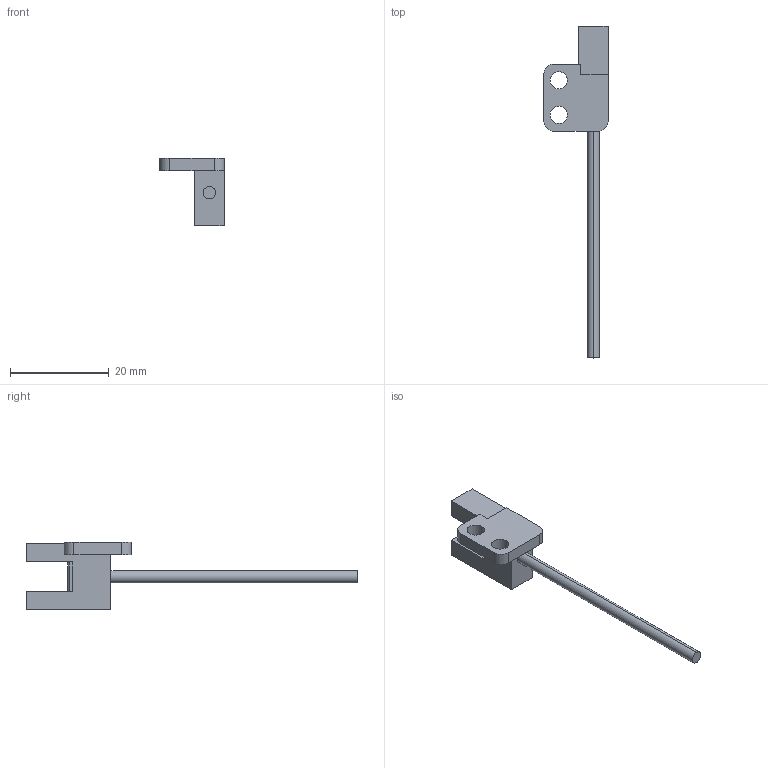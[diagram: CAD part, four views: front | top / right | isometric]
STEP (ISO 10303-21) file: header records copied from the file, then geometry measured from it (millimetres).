
FILE_DESCRIPTION (( 'STEP AP203' ), '1' );
FILE_NAME ('pm-r45.STEP', '2015-03-16T10:30:23', ( '' ), ( '' ), 'SwSTEP 2.0', 'SolidWorks 2010', '' );
FILE_SCHEMA (( 'CONFIG_CONTROL_DESIGN' ));
Length unit declared in the file: millimetre
Products named in the file (1): pm-r45
Bounding box: 13 x 67.2 x 13.7 mm (x, y, z)
Volume: 1577.5 mm3; surface area: 1531.5 mm2
Topology: 1 solids, 1 shells, 59 faces, 156 edges, 104 vertices
Faces by surface type: plane 50, cylinder 9
Entity records: 1893 total; most frequent: CARTESIAN_POINT 320, ORIENTED_EDGE 312, DIRECTION 294, EDGE_CURVE 156, VECTOR 138, LINE 138, VERTEX_POINT 104, AXIS2_PLACEMENT_3D 78
